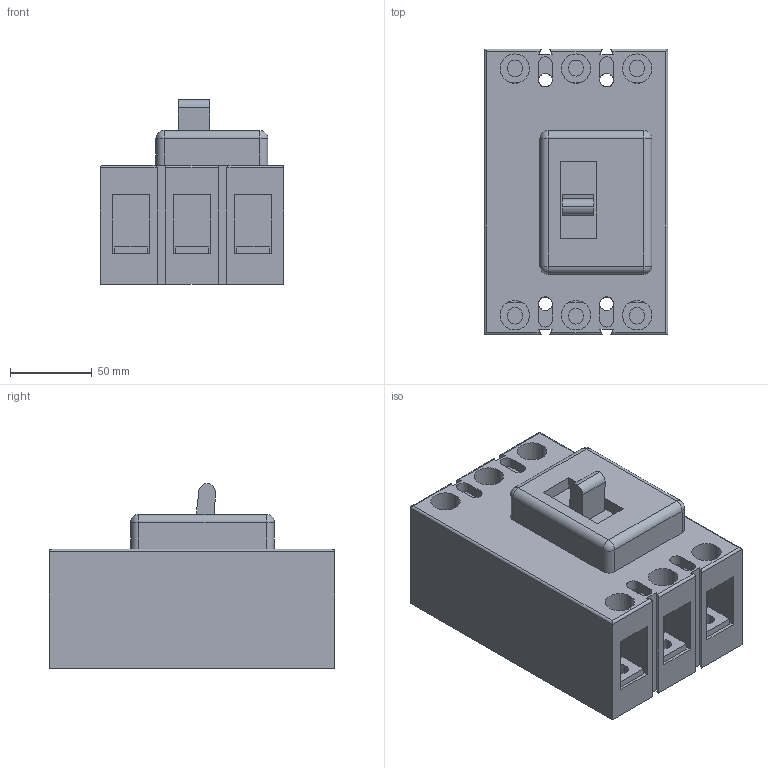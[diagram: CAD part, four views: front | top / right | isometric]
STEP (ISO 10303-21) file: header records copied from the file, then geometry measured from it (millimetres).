
FILE_DESCRIPTION (( 'STEP AP214' ), '1' );
FILE_NAME ('臍04-36 (4).STEP', '2023-07-21T13:08:10', ( '' ), ( '' ), 'SwSTEP 2.0', 'SolidWorks 2018', '' );
FILE_SCHEMA (( 'AUTOMOTIVE_DESIGN' ));
Length unit declared in the file: millimetre
Products named in the file (1): 臍04-36 (4)
Bounding box: 112.5 x 175 x 113.27 mm (x, y, z)
Volume: 1401521.9 mm3; surface area: 121664.6 mm2
Topology: 1 solids, 1 shells, 189 faces, 474 edges, 308 vertices
Faces by surface type: plane 127, cylinder 58, sphere 4
Entity records: 5650 total; most frequent: CARTESIAN_POINT 1004, ORIENTED_EDGE 940, DIRECTION 938, EDGE_CURVE 470, LINE 358, VECTOR 358, VERTEX_POINT 308, AXIS2_PLACEMENT_3D 290
